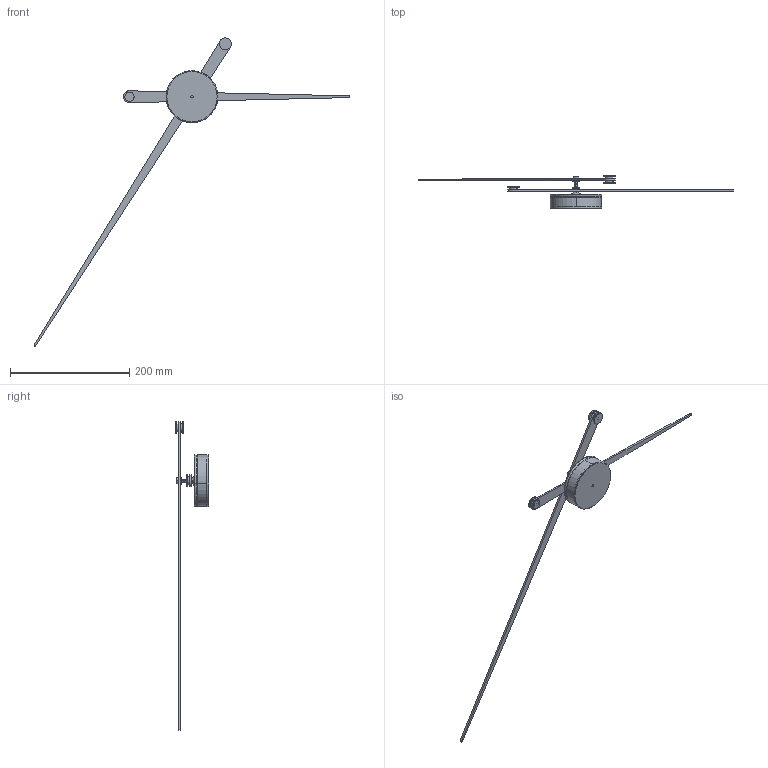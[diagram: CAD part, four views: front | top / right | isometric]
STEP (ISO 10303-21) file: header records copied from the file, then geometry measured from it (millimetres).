
FILE_DESCRIPTION (( 'STEP AP214' ), '1' );
FILE_NAME ('Axioma_L_100.STEP', '2021-09-06T08:24:15', ( '' ), ( '' ), 'SwSTEP 2.0', 'SolidWorks 2016', '' );
FILE_SCHEMA (( 'AUTOMOTIVE_DESIGN' ));
Length unit declared in the file: millimetre
Products named in the file (19): Esparrago; Arandela_2; Tuerca 1.5; Axioma_L_100; Agujas_minutera_lacada_100; Embellecedor; Inserto horaria; tuerca_7.3_1.5; Caja_acero_inox; aguja_horaria_lacada_100; aguja_minutera_lacada_100; Mecanismo; Agujas_horaria_lacada_100; Pieza2; Pieza_caja_inferior; Cierre_contrapeso; Contrapeso_pequeño; Contrapeso grande; Pieza_caja_superior
Assembly tree (20 placements, depth 3):
  Axioma_L_100
    Caja_acero_inox
      Pieza_caja_inferior
      Pieza_caja_superior
      Mecanismo
      Pieza2
    Agujas_horaria_lacada_100
      aguja_horaria_lacada_100
      tuerca_7.3_1.5
      Arandela_2
      Inserto horaria
      Contrapeso_pequeño
      Cierre_contrapeso
    Agujas_minutera_lacada_100
      aguja_minutera_lacada_100
      Contrapeso_pequeño
      Embellecedor
      Arandela_2
      Esparrago
      Tuerca 1.5
      Contrapeso grande
Bounding box: 530.01 x 55.8 x 517.53 mm (x, y, z)
Volume: 98071.4 mm3; surface area: 90272.9 mm2
Topology: 17 solids, 17 shells, 209 faces, 428 edges, 270 vertices
Faces by surface type: cylinder 100, plane 71, torus 26, cone 12
Entity records: 5980 total; most frequent: DIRECTION 1072, CARTESIAN_POINT 867, ORIENTED_EDGE 796, AXIS2_PLACEMENT_3D 455, EDGE_CURVE 398, VERTEX_POINT 250, CIRCLE 236, EDGE_LOOP 230
